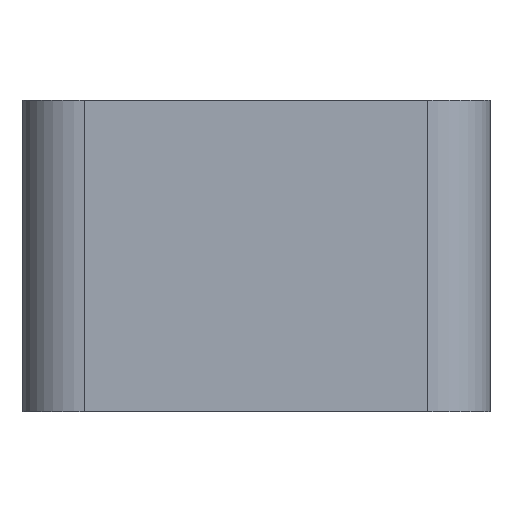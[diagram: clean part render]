
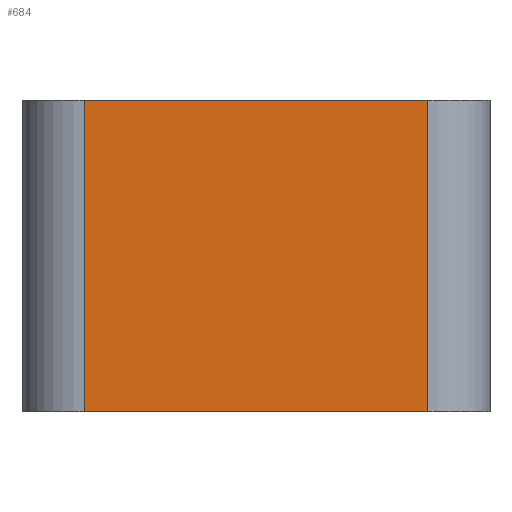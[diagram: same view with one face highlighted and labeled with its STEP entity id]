
A CAD part, front view. The second image highlights one B-rep face of the part: STEP entity #684.
In plain terms, the highlighted planar face has unit normal (0, -1, 0).
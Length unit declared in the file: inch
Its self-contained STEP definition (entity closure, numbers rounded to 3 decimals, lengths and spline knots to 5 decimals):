
#4 = CARTESIAN_POINT ( 'NONE',  ( -0.30273, -2.84282, 0.5 ) ) ;
#12 = PLANE ( 'NONE',  #605 ) ;
#19 = CARTESIAN_POINT ( 'NONE',  ( -0.30273, -2.84282, 0. ) ) ;
#26 = DIRECTION ( 'NONE',  ( 0., 1., 0. ) ) ;
#27 = DIRECTION ( 'NONE',  ( 0., 0., 1. ) ) ;
#62 = CARTESIAN_POINT ( 'NONE',  ( -0.20273, -2.84282, 0.5 ) ) ;
#64 = CARTESIAN_POINT ( 'NONE',  ( -0.20273, -2.84282, 0. ) ) ;
#142 = EDGE_CURVE ( 'NONE', #210, #211, #510, .T. ) ;
#184 = DIRECTION ( 'NONE',  ( 0., 0., -1. ) ) ;
#185 = CARTESIAN_POINT ( 'NONE',  ( -0.20273, -2.84282, 0.5 ) ) ;
#194 = DIRECTION ( 'NONE',  ( 0., 0., 1. ) ) ;
#204 = CARTESIAN_POINT ( 'NONE',  ( 0.34727, -2.84282, 0.5 ) ) ;
#210 = VERTEX_POINT ( 'NONE', #248 ) ;
#211 = VERTEX_POINT ( 'NONE', #219 ) ;
#219 = CARTESIAN_POINT ( 'NONE',  ( 0.34727, -2.84282, 0.5 ) ) ;
#238 = VERTEX_POINT ( 'NONE', #64 ) ;
#244 = VERTEX_POINT ( 'NONE', #62 ) ;
#248 = CARTESIAN_POINT ( 'NONE',  ( 0.34727, -2.84282, 0. ) ) ;
#286 = ORIENTED_EDGE ( 'NONE', *, *, #707, .T. ) ;
#345 = EDGE_LOOP ( 'NONE', ( #286, #397, #387, #492 ) ) ;
#387 = ORIENTED_EDGE ( 'NONE', *, *, #730, .F. ) ;
#395 = VECTOR ( 'NONE', #646, 39.37008 ) ;
#397 = ORIENTED_EDGE ( 'NONE', *, *, #142, .T. ) ;
#410 = FACE_OUTER_BOUND ( 'NONE', #345, .T. ) ;
#432 = LINE ( 'NONE', #647, #395 ) ;
#462 = VECTOR ( 'NONE', #693, 39.37008 ) ;
#475 = LINE ( 'NONE', #185, #478 ) ;
#478 = VECTOR ( 'NONE', #184, 39.37008 ) ;
#492 = ORIENTED_EDGE ( 'NONE', *, *, #744, .T. ) ;
#504 = VECTOR ( 'NONE', #194, 39.37008 ) ;
#510 = LINE ( 'NONE', #204, #504 ) ;
#524 = LINE ( 'NONE', #19, #462 ) ;
#605 = AXIS2_PLACEMENT_3D ( 'NONE', #4, #26, #27 ) ;
#646 = DIRECTION ( 'NONE',  ( 1., 0., 0. ) ) ;
#647 = CARTESIAN_POINT ( 'NONE',  ( -0.30273, -2.84282, 0.5 ) ) ;
#684 = ADVANCED_FACE ( 'NONE', ( #410 ), #12, .F. ) ;
#693 = DIRECTION ( 'NONE',  ( 1., 0., 0. ) ) ;
#707 = EDGE_CURVE ( 'NONE', #238, #210, #524, .T. ) ;
#730 = EDGE_CURVE ( 'NONE', #244, #211, #432, .T. ) ;
#744 = EDGE_CURVE ( 'NONE', #244, #238, #475, .T. ) ;
